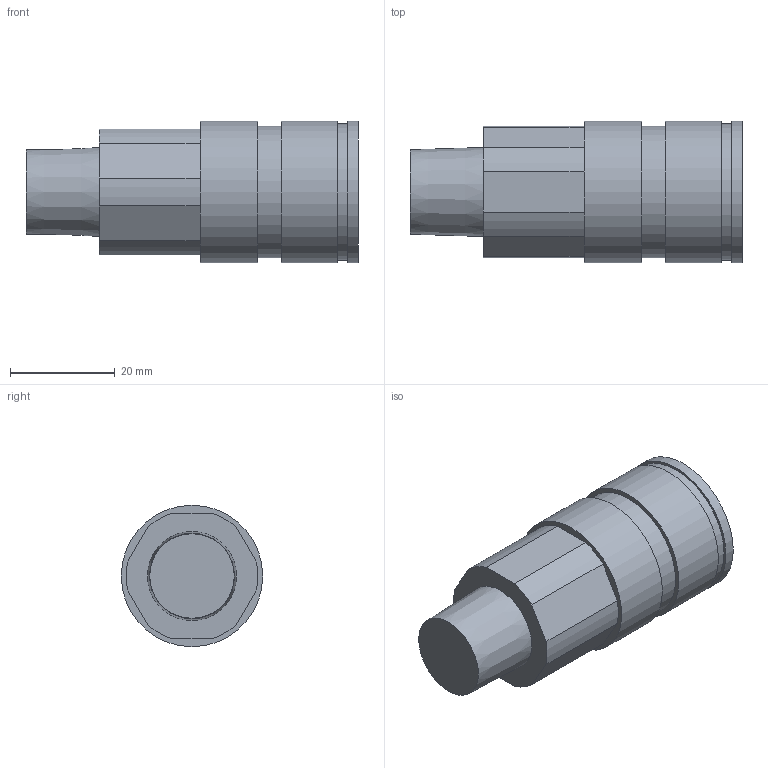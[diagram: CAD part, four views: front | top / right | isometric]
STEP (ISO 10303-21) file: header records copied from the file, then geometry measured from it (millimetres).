
FILE_DESCRIPTION((''),'2;1');
FILE_NAME('Z:\客先\あ行\アオイ\99_その他\3D_DATA\CPR_Series\4CPR-SSV-R\STEP\203\CPR-SSV-R3-8.ipt.stp','2008-07-01T16:12:54',(''),(''),'Autodesk Inventor 2009','Autodesk Inventor 2009','');
FILE_SCHEMA(('CONFIG_CONTROL_DESIGN'));
Length unit declared in the file: millimetre
Products named in the file (1): CPR-SSV-R3-8
Bounding box: 63.4 x 27 x 27 mm (x, y, z)
Volume: 22911.2 mm3; surface area: 7429.7 mm2
Topology: 1 solids, 1 shells, 28 faces, 57 edges, 38 vertices
Faces by surface type: plane 15, cylinder 12, cone 1
Full cylindrical faces by diameter (mm): 18.9 x1, 25.2 x1, 26 x1, 27 x3
Entity records: 729 total; most frequent: DIRECTION 134, CARTESIAN_POINT 117, ORIENTED_EDGE 100, AXIS2_PLACEMENT_3D 55, EDGE_CURVE 50, EDGE_LOOP 42, VERTEX_POINT 38, FACE_OUTER_BOUND 28
